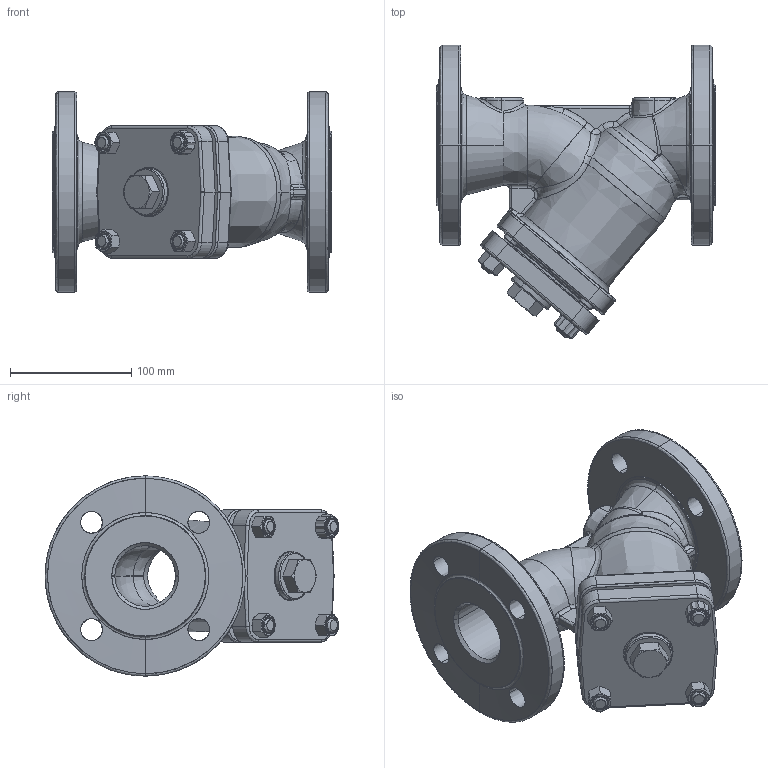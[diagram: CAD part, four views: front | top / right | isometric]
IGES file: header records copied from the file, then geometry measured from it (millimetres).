
Start section: SolidWorks IGES file using analytic representation for surfaces
Global section: file name: D:\Archiwum SolidWorks\staliwo\821\PN40\CAD\821_DN50 PN40.IGS; native system: SolidWorks 2010; preprocessor: SolidWorks 2010; author: wtarnaws; date: 100113.080017; units: millimetre
Bounding box: 230 x 242.09 x 165 mm (x, y, z)
Surface area: 282373.6 mm2 (no closed solid volume)
Topology: 0 solids, 0 shells, 584 faces, 9377 edges, 9377 vertices
Faces by surface type: revolution 299, bspline 285
